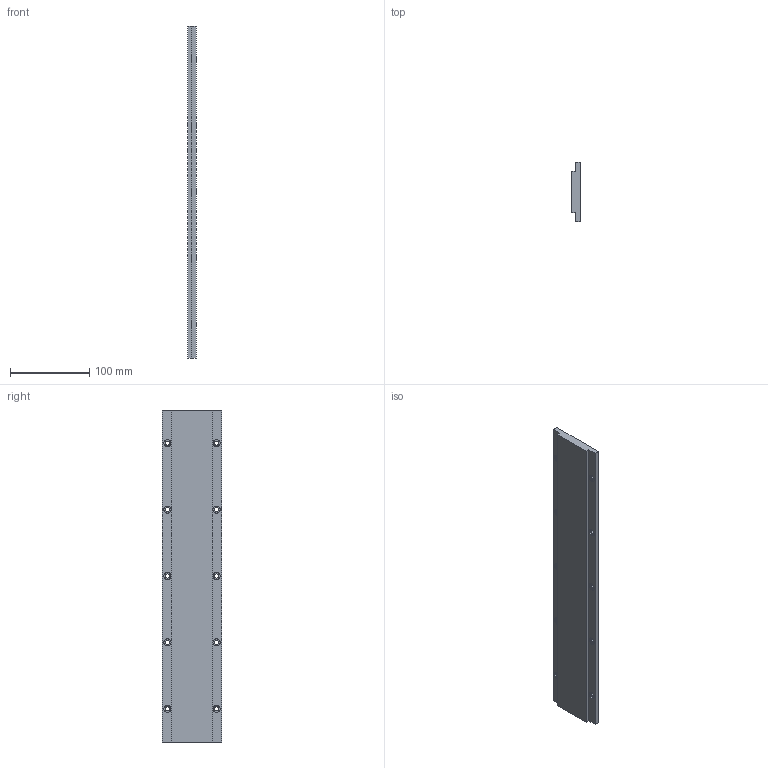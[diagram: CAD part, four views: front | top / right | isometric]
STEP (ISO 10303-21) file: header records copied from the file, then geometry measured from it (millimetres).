
FILE_DESCRIPTION (( 'STEP AP214' ), '1' );
FILE_NAME ('2-WKM50-420.STEP', '2025-09-05T11:49:11', ( '' ), ( '' ), 'SwSTEP 2.0', 'SolidWorks 2016', '' );
FILE_SCHEMA (( 'AUTOMOTIVE_DESIGN' ));
Length unit declared in the file: millimetre
Products named in the file (1): 2-WKM50-420
Bounding box: 10.8 x 75 x 420 mm (x, y, z)
Volume: 291677.2 mm3; surface area: 74261.5 mm2
Topology: 1 solids, 1 shells, 60 faces, 144 edges, 96 vertices
Faces by surface type: cylinder 40, plane 20
Entity records: 1862 total; most frequent: DIRECTION 346, CARTESIAN_POINT 301, ORIENTED_EDGE 288, EDGE_CURVE 144, AXIS2_PLACEMENT_3D 141, VERTEX_POINT 96, EDGE_LOOP 90, CIRCLE 80
